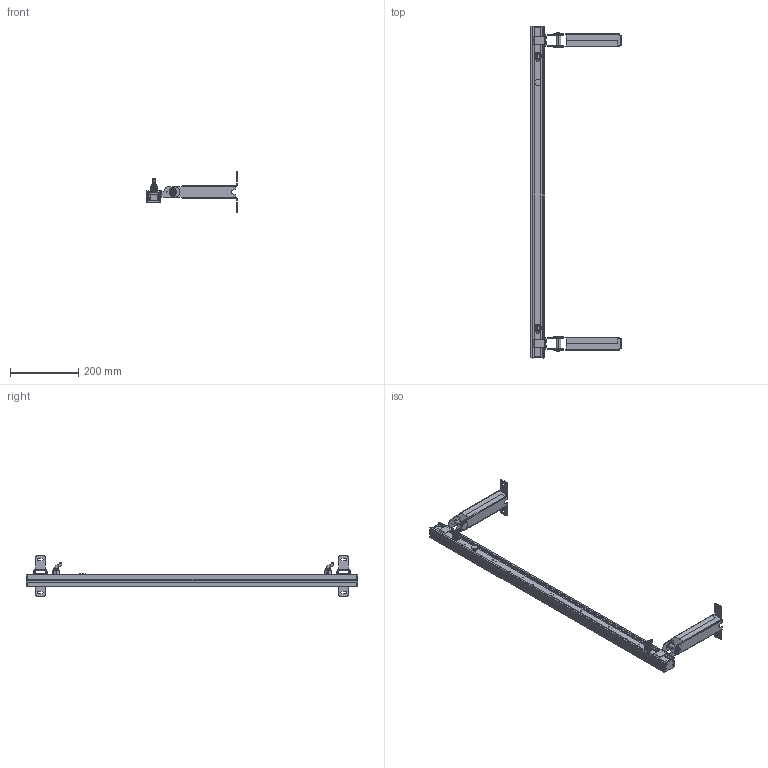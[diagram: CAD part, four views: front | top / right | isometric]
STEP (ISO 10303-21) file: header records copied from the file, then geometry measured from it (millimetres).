
FILE_DESCRIPTION((''),'2;1');
FILE_NAME('B6KE2457_ASM','2023-02-04T',('Administrator'),(''),'CREO PARAMETRIC BY PTC INC, 2015200','CREO PARAMETRIC BY PTC INC, 2015200','');
FILE_SCHEMA(('CONFIG_CONTROL_DESIGN'));
Products named in the file (27): 6KE-A; PG9_U___M; ___J3; ___J1; ___J2; PG9___1_ASM; PG_______Y___ASM; 6K-_3D_2017_1_6_; 6K_56_1; 6K_LJB_24PCS_5; 6R_TJZJ_5; M3-22; 6K_LJB_ZJ_ASM_6_ASM; PRODUCT_88784_ANY_1_1; M3X6-YT_2; 6L-A1; 6L-A2; 6K-Y; 6LK; ___S_OF__S__37____X__2___B6KA12; SOCKET_HEAD_CAP_SCREW_ISO_ISO_4; M4-6; 6L-A_ASM; 6K-Y1; 6L-B_ASM; 6K_BL_1M_11; B6KE2457_ASM
Assembly tree (49 placements, depth 4):
  B6KE2457_ASM
    6KE-A
    PG_______Y___ASM  x2
      PG9_U___M
      PG9___1_ASM
        ___J3
        ___J1
        ___J2
    6K-_3D_2017_1_6_  x2
    6K_56_1  x2
    6K_LJB_ZJ_ASM_6_ASM  x4
      6K_LJB_24PCS_5
      6R_TJZJ_5
      M3-22
    PRODUCT_88784_ANY_1_1
    M3X6-YT_2  x8
    6L-A_ASM
      6L-A1
      6L-A2
      6K-Y
      6LK
      ___S_OF__S__37____X__2___B6KA12
      SOCKET_HEAD_CAP_SCREW_ISO_ISO_4
      M4-6  x2
    6L-B_ASM
      6L-A1
      6L-A2
      6K-Y1
      6LK
      SOCKET_HEAD_CAP_SCREW_ISO_ISO_4
      ___S_OF__S__37____X__2___B6KA12
      M4-6  x2
    6K_BL_1M_11
Bounding box: 266 x 973.51 x 120 mm (x, y, z)
Volume: 944076.1 mm3; surface area: 596969.6 mm2
Topology: 59 solids, 59 shells, 5578 faces, 14416 edges, 9354 vertices
Faces by surface type: plane 3582, cylinder 1150, cone 474, extrusion 264, revolution 48, bspline 28, torus 16, sphere 16
Entity records: 89367 total; most frequent: CARTESIAN_POINT 26097, ORIENTED_EDGE 13204, DIRECTION 12384, EDGE_CURVE 6602, VECTOR 5238, LINE 5106, VERTEX_POINT 4357, AXIS2_PLACEMENT_3D 3567
